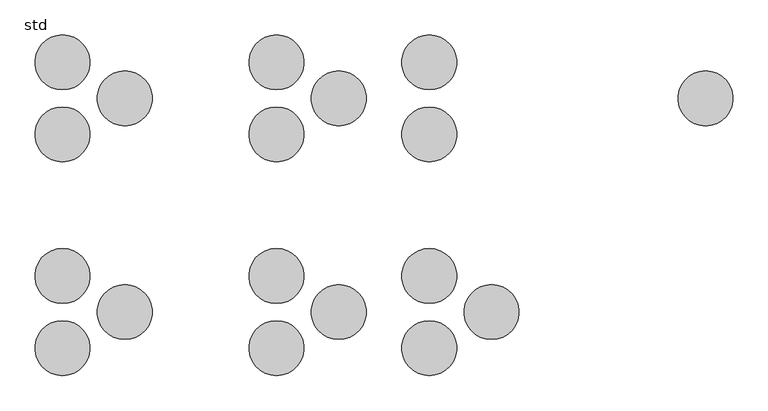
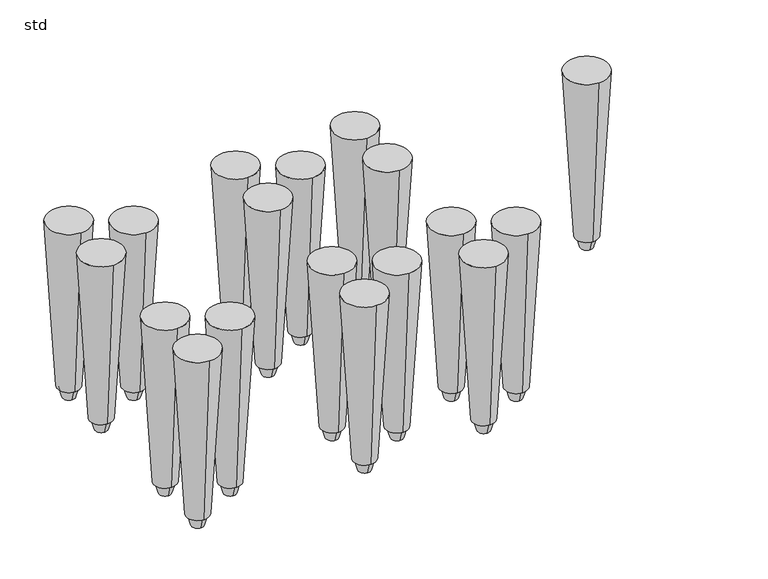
"""IFC4 building model written with IfcOpenShell, lengths in millimetres: unitary equipment geometry, Z_ME_UN_Aquacell_NG_Infiltration_Unit_Wavin_(nested) : std."""

from ifc_helpers import new_model, si_unit, frame, origin, place, context, project, spatial, polyline, circle_curve, source, transform, mapped, element, save
from ifc_brep_helpers import plane_surface, revolved_surface, advanced_brep


def std_cb78f788(model_context):
    return source(origin(), model_context, "Body", "AdvancedBrep", [
        advanced_brep(
        [(1144.0, 487.65, 175.0), (1144.0, 462.35, 175.0), (1144.0, 494.5, 200.0), (1144.0, 455.5, 200.0)],
        [
            (0, 1, circle_curve(frame((1144.0, 475.0, 175.0), z_axis=(0.0, 0.0, -1.0), x_axis=(0.0, 1.0, 0.0)), 12.65)),
            (1, 0, circle_curve(frame((1144.0, 475.0, 175.0), z_axis=(0.0, 0.0, -1.0), x_axis=(0.0, -1.0, 0.0)), 12.65)),
            (2, 3, circle_curve(frame((1144.0, 475.0, 200.0), z_axis=(0.0, 0.0, 1.0), x_axis=(0.0, -1.0, 0.0)), 19.5)),
            (3, 2, circle_curve(frame((1144.0, 475.0, 200.0), z_axis=(0.0, 0.0, 1.0), x_axis=(0.0, 1.0, 0.0)), 19.5)),
            (3, 1),
            (0, 2),
        ],
        [
            plane_surface(frame((1144.0, 475.0, 175.0), z_axis=(0.0, 0.0, -1.0), x_axis=(1.0, 0.0, 0.0))),
            plane_surface(frame((1144.0, 475.0, 200.0), z_axis=(0.0, 0.0, 1.0), x_axis=(1.0, 0.0, 0.0))),
            revolved_surface(polyline([(1144.0, 487.6499999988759, 175.0), (1144.0, 494.5, 200.0)]), (1144.0, 475.0, 128.8321168), (0.0, 0.0, 1.0)),
            revolved_surface(polyline([(1144.0, 462.3500000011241, 175.0), (1144.0, 455.5, 200.0)]), (1144.0, 475.0, 128.8321168), (0.0, 0.0, 1.0)),
        ],
        [
            (0, [[1, 2]]),
            (1, [[3, 4]]),
            (2, [[-4, 5, -1, 6]]),
            (3, [[-3, -6, -2, -5]]),
        ],
    ),
        advanced_brep(
        [(1144.0, 498.65, 200.0), (1144.0, 451.35, 200.0), (1144.0, 520.0, 565.0), (1144.0, 430.0, 565.0)],
        [
            (0, 1, circle_curve(frame((1144.0, 475.0, 200.0), z_axis=(0.0, 0.0, -1.0), x_axis=(0.0, 1.0, 0.0)), 23.65)),
            (1, 0, circle_curve(frame((1144.0, 475.0, 200.0), z_axis=(0.0, 0.0, -1.0), x_axis=(0.0, -1.0, 0.0)), 23.65)),
            (2, 3, circle_curve(frame((1144.0, 475.0, 565.0), z_axis=(0.0, 0.0, 1.0), x_axis=(0.0, -1.0, 0.0)), 45.0)),
            (3, 2, circle_curve(frame((1144.0, 475.0, 565.0), z_axis=(0.0, 0.0, 1.0), x_axis=(0.0, 1.0, 0.0)), 45.0)),
            (3, 1),
            (0, 2),
        ],
        [
            plane_surface(frame((1144.0, 475.0, 200.0), z_axis=(0.0, 0.0, -1.0), x_axis=(1.0, 0.0, 0.0))),
            plane_surface(frame((1144.0, 475.0, 565.0), z_axis=(0.0, 0.0, 1.0), x_axis=(1.0, 0.0, 0.0))),
            revolved_surface(polyline([(1144.0, 498.6500000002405, 199.99999999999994), (1144.0, 520.0, 565.0)]), (1144.0, 475.0, -204.3208431), (0.0, 0.0, 1.0)),
            revolved_surface(polyline([(1144.0, 451.3499999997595, 199.99999999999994), (1144.0, 430.0, 565.0)]), (1144.0, 475.0, -204.3208431), (0.0, 0.0, 1.0)),
        ],
        [
            (0, [[1, 2]]),
            (1, [[3, 4]]),
            (2, [[-4, 5, -1, 6]]),
            (3, [[-3, -6, -2, -5]]),
        ],
    ),
        advanced_brep(
        [(692.0, 78.65, 175.0), (692.0, 53.35, 175.0), (692.0, 85.5, 200.0), (692.0, 46.5, 200.0)],
        [
            (0, 1, circle_curve(frame((692.0, 66.0, 175.0), z_axis=(0.0, 0.0, -1.0), x_axis=(0.0, 1.0, 0.0)), 12.65)),
            (1, 0, circle_curve(frame((692.0, 66.0, 175.0), z_axis=(0.0, 0.0, -1.0), x_axis=(0.0, -1.0, 0.0)), 12.65)),
            (2, 3, circle_curve(frame((692.0, 66.0, 200.0), z_axis=(0.0, 0.0, 1.0), x_axis=(0.0, -1.0, 0.0)), 19.5)),
            (3, 2, circle_curve(frame((692.0, 66.0, 200.0), z_axis=(0.0, 0.0, 1.0), x_axis=(0.0, 1.0, 0.0)), 19.5)),
            (3, 1),
            (0, 2),
        ],
        [
            plane_surface(frame((692.0, 66.0, 175.0), z_axis=(0.0, 0.0, -1.0), x_axis=(1.0, 0.0, 0.0))),
            plane_surface(frame((692.0, 66.0, 200.0), z_axis=(0.0, 0.0, 1.0), x_axis=(1.0, 0.0, 0.0))),
            revolved_surface(polyline([(692.0, 78.6499999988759, 175.0), (692.0, 85.5, 200.0)]), (692.0, 66.0, 128.8321168), (0.0, 0.0, 1.0)),
            revolved_surface(polyline([(692.0, 53.3500000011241, 175.0), (692.0, 46.5, 200.0)]), (692.0, 66.0, 128.8321168), (0.0, 0.0, 1.0)),
        ],
        [
            (0, [[1, 2]]),
            (1, [[3, 4]]),
            (2, [[-4, 5, -1, 6]]),
            (3, [[-3, -6, -2, -5]]),
        ],
    ),
        advanced_brep(
        [(692.0, 196.65, 175.0), (692.0, 171.35, 175.0), (692.0, 203.5, 200.0), (692.0, 164.5, 200.0)],
        [
            (0, 1, circle_curve(frame((692.0, 184.0, 175.0), z_axis=(0.0, 0.0, -1.0), x_axis=(0.0, 1.0, 0.0)), 12.65)),
            (1, 0, circle_curve(frame((692.0, 184.0, 175.0), z_axis=(0.0, 0.0, -1.0), x_axis=(0.0, -1.0, 0.0)), 12.65)),
            (2, 3, circle_curve(frame((692.0, 184.0, 200.0), z_axis=(0.0, 0.0, 1.0), x_axis=(0.0, -1.0, 0.0)), 19.5)),
            (3, 2, circle_curve(frame((692.0, 184.0, 200.0), z_axis=(0.0, 0.0, 1.0), x_axis=(0.0, 1.0, 0.0)), 19.5)),
            (3, 1),
            (0, 2),
        ],
        [
            plane_surface(frame((692.0, 184.0, 175.0), z_axis=(0.0, 0.0, -1.0), x_axis=(1.0, 0.0, 0.0))),
            plane_surface(frame((692.0, 184.0, 200.0), z_axis=(0.0, 0.0, 1.0), x_axis=(1.0, 0.0, 0.0))),
            revolved_surface(polyline([(692.0, 196.6499999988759, 175.0), (692.0, 203.5, 200.0)]), (692.0, 184.0, 128.8321168), (0.0, 0.0, 1.0)),
            revolved_surface(polyline([(692.0, 171.3500000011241, 175.0), (692.0, 164.5, 200.0)]), (692.0, 184.0, 128.8321168), (0.0, 0.0, 1.0)),
        ],
        [
            (0, [[1, 2]]),
            (1, [[3, 4]]),
            (2, [[-4, 5, -1, 6]]),
            (3, [[-3, -6, -2, -5]]),
        ],
    ),
        advanced_brep(
        [(692.0, 89.65, 200.0), (692.0, 42.35, 200.0), (692.0, 111.0, 565.0), (692.0, 21.0, 565.0)],
        [
            (0, 1, circle_curve(frame((692.0, 66.0, 200.0), z_axis=(0.0, 0.0, -1.0), x_axis=(0.0, 1.0, 0.0)), 23.65)),
            (1, 0, circle_curve(frame((692.0, 66.0, 200.0), z_axis=(0.0, 0.0, -1.0), x_axis=(0.0, -1.0, 0.0)), 23.65)),
            (2, 3, circle_curve(frame((692.0, 66.0, 565.0), z_axis=(0.0, 0.0, 1.0), x_axis=(0.0, -1.0, 0.0)), 45.0)),
            (3, 2, circle_curve(frame((692.0, 66.0, 565.0), z_axis=(0.0, 0.0, 1.0), x_axis=(0.0, 1.0, 0.0)), 45.0)),
            (3, 1),
            (0, 2),
        ],
        [
            plane_surface(frame((692.0, 66.0, 200.0), z_axis=(0.0, 0.0, -1.0), x_axis=(1.0, 0.0, 0.0))),
            plane_surface(frame((692.0, 66.0, 565.0), z_axis=(0.0, 0.0, 1.0), x_axis=(1.0, 0.0, 0.0))),
            revolved_surface(polyline([(692.0, 89.65000000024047, 199.99999999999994), (692.0, 111.0, 565.0)]), (692.0, 66.0, -204.3208431), (0.0, 0.0, 1.0)),
            revolved_surface(polyline([(692.0, 42.34999999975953, 199.99999999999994), (692.0, 21.0, 565.0)]), (692.0, 66.0, -204.3208431), (0.0, 0.0, 1.0)),
        ],
        [
            (0, [[1, 2]]),
            (1, [[3, 4]]),
            (2, [[-4, 5, -1, 6]]),
            (3, [[-3, -6, -2, -5]]),
        ],
    ),
        advanced_brep(
        [(692.0, 207.65, 200.0), (692.0, 160.35, 200.0), (692.0, 229.0, 565.0), (692.0, 139.0, 565.0)],
        [
            (0, 1, circle_curve(frame((692.0, 184.0, 200.0), z_axis=(0.0, 0.0, -1.0), x_axis=(0.0, 1.0, 0.0)), 23.65)),
            (1, 0, circle_curve(frame((692.0, 184.0, 200.0), z_axis=(0.0, 0.0, -1.0), x_axis=(0.0, -1.0, 0.0)), 23.65)),
            (2, 3, circle_curve(frame((692.0, 184.0, 565.0), z_axis=(0.0, 0.0, 1.0), x_axis=(0.0, -1.0, 0.0)), 45.0)),
            (3, 2, circle_curve(frame((692.0, 184.0, 565.0), z_axis=(0.0, 0.0, 1.0), x_axis=(0.0, 1.0, 0.0)), 45.0)),
            (3, 1),
            (0, 2),
        ],
        [
            plane_surface(frame((692.0, 184.0, 200.0), z_axis=(0.0, 0.0, -1.0), x_axis=(1.0, 0.0, 0.0))),
            plane_surface(frame((692.0, 184.0, 565.0), z_axis=(0.0, 0.0, 1.0), x_axis=(1.0, 0.0, 0.0))),
            revolved_surface(polyline([(692.0, 207.65000000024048, 199.99999999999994), (692.0, 229.0, 565.0)]), (692.0, 184.0, -204.3208431), (0.0, 0.0, 1.0)),
            revolved_surface(polyline([(692.0, 160.34999999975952, 199.99999999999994), (692.0, 139.0, 565.0)]), (692.0, 184.0, -204.3208431), (0.0, 0.0, 1.0)),
        ],
        [
            (0, [[1, 2]]),
            (1, [[3, 4]]),
            (2, [[-4, 5, -1, 6]]),
            (3, [[-3, -6, -2, -5]]),
        ],
    ),
        advanced_brep(
        [(794.0, 137.65, 175.0), (794.0, 112.35, 175.0), (794.0, 144.5, 200.0), (794.0, 105.5, 200.0)],
        [
            (0, 1, circle_curve(frame((794.0, 125.0, 175.0), z_axis=(0.0, 0.0, -1.0), x_axis=(0.0, 1.0, 0.0)), 12.65)),
            (1, 0, circle_curve(frame((794.0, 125.0, 175.0), z_axis=(0.0, 0.0, -1.0), x_axis=(0.0, -1.0, 0.0)), 12.65)),
            (2, 3, circle_curve(frame((794.0, 125.0, 200.0), z_axis=(0.0, 0.0, 1.0), x_axis=(0.0, -1.0, 0.0)), 19.5)),
            (3, 2, circle_curve(frame((794.0, 125.0, 200.0), z_axis=(0.0, 0.0, 1.0), x_axis=(0.0, 1.0, 0.0)), 19.5)),
            (3, 1),
            (0, 2),
        ],
        [
            plane_surface(frame((794.0, 125.0, 175.0), z_axis=(0.0, 0.0, -1.0), x_axis=(1.0, 0.0, 0.0))),
            plane_surface(frame((794.0, 125.0, 200.0), z_axis=(0.0, 0.0, 1.0), x_axis=(1.0, 0.0, 0.0))),
            revolved_surface(polyline([(794.0, 137.6499999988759, 175.0), (794.0, 144.5, 200.0)]), (794.0, 125.0, 128.8321168), (0.0, 0.0, 1.0)),
            revolved_surface(polyline([(794.0, 112.3500000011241, 175.0), (794.0, 105.5, 200.0)]), (794.0, 125.0, 128.8321168), (0.0, 0.0, 1.0)),
        ],
        [
            (0, [[1, 2]]),
            (1, [[3, 4]]),
            (2, [[-4, 5, -1, 6]]),
            (3, [[-3, -6, -2, -5]]),
        ],
    ),
        advanced_brep(
        [(794.0, 148.65, 200.0), (794.0, 101.35, 200.0), (794.0, 170.0, 565.0), (794.0, 80.0, 565.0)],
        [
            (0, 1, circle_curve(frame((794.0, 125.0, 200.0), z_axis=(0.0, 0.0, -1.0), x_axis=(0.0, 1.0, 0.0)), 23.65)),
            (1, 0, circle_curve(frame((794.0, 125.0, 200.0), z_axis=(0.0, 0.0, -1.0), x_axis=(0.0, -1.0, 0.0)), 23.65)),
            (2, 3, circle_curve(frame((794.0, 125.0, 565.0), z_axis=(0.0, 0.0, 1.0), x_axis=(0.0, -1.0, 0.0)), 45.0)),
            (3, 2, circle_curve(frame((794.0, 125.0, 565.0), z_axis=(0.0, 0.0, 1.0), x_axis=(0.0, 1.0, 0.0)), 45.0)),
            (3, 1),
            (0, 2),
        ],
        [
            plane_surface(frame((794.0, 125.0, 200.0), z_axis=(0.0, 0.0, -1.0), x_axis=(1.0, 0.0, 0.0))),
            plane_surface(frame((794.0, 125.0, 565.0), z_axis=(0.0, 0.0, 1.0), x_axis=(1.0, 0.0, 0.0))),
            revolved_surface(polyline([(794.0, 148.65000000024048, 199.99999999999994), (794.0, 170.0, 565.0)]), (794.0, 125.0, -204.3208431), (0.0, 0.0, 1.0)),
            revolved_surface(polyline([(794.0, 101.34999999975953, 199.99999999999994), (794.0, 80.0, 565.0)]), (794.0, 125.0, -204.3208431), (0.0, 0.0, 1.0)),
        ],
        [
            (0, [[1, 2]]),
            (1, [[3, 4]]),
            (2, [[-4, 5, -1, 6]]),
            (3, [[-3, -6, -2, -5]]),
        ],
    ),
        advanced_brep(
        [(442.0, 78.65, 175.0), (442.0, 53.35, 175.0), (442.0, 85.5, 200.0), (442.0, 46.5, 200.0)],
        [
            (0, 1, circle_curve(frame((442.0, 66.0, 175.0), z_axis=(0.0, 0.0, -1.0), x_axis=(0.0, 1.0, 0.0)), 12.65)),
            (1, 0, circle_curve(frame((442.0, 66.0, 175.0), z_axis=(0.0, 0.0, -1.0), x_axis=(0.0, -1.0, 0.0)), 12.65)),
            (2, 3, circle_curve(frame((442.0, 66.0, 200.0), z_axis=(0.0, 0.0, 1.0), x_axis=(0.0, -1.0, 0.0)), 19.5)),
            (3, 2, circle_curve(frame((442.0, 66.0, 200.0), z_axis=(0.0, 0.0, 1.0), x_axis=(0.0, 1.0, 0.0)), 19.5)),
            (3, 1),
            (0, 2),
        ],
        [
            plane_surface(frame((442.0, 66.0, 175.0), z_axis=(0.0, 0.0, -1.0), x_axis=(1.0, 0.0, 0.0))),
            plane_surface(frame((442.0, 66.0, 200.0), z_axis=(0.0, 0.0, 1.0), x_axis=(1.0, 0.0, 0.0))),
            revolved_surface(polyline([(442.0, 78.6499999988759, 175.0), (442.0, 85.5, 200.0)]), (442.0, 66.0, 128.8321168), (0.0, 0.0, 1.0)),
            revolved_surface(polyline([(442.0, 53.3500000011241, 175.0), (442.0, 46.5, 200.0)]), (442.0, 66.0, 128.8321168), (0.0, 0.0, 1.0)),
        ],
        [
            (0, [[1, 2]]),
            (1, [[3, 4]]),
            (2, [[-4, 5, -1, 6]]),
            (3, [[-3, -6, -2, -5]]),
        ],
    ),
        advanced_brep(
        [(442.0, 196.65, 175.0), (442.0, 171.35, 175.0), (442.0, 203.5, 200.0), (442.0, 164.5, 200.0)],
        [
            (0, 1, circle_curve(frame((442.0, 184.0, 175.0), z_axis=(0.0, 0.0, -1.0), x_axis=(0.0, 1.0, 0.0)), 12.65)),
            (1, 0, circle_curve(frame((442.0, 184.0, 175.0), z_axis=(0.0, 0.0, -1.0), x_axis=(0.0, -1.0, 0.0)), 12.65)),
            (2, 3, circle_curve(frame((442.0, 184.0, 200.0), z_axis=(0.0, 0.0, 1.0), x_axis=(0.0, -1.0, 0.0)), 19.5)),
            (3, 2, circle_curve(frame((442.0, 184.0, 200.0), z_axis=(0.0, 0.0, 1.0), x_axis=(0.0, 1.0, 0.0)), 19.5)),
            (3, 1),
            (0, 2),
        ],
        [
            plane_surface(frame((442.0, 184.0, 175.0), z_axis=(0.0, 0.0, -1.0), x_axis=(1.0, 0.0, 0.0))),
            plane_surface(frame((442.0, 184.0, 200.0), z_axis=(0.0, 0.0, 1.0), x_axis=(1.0, 0.0, 0.0))),
            revolved_surface(polyline([(442.0, 196.6499999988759, 175.0), (442.0, 203.5, 200.0)]), (442.0, 184.0, 128.8321168), (0.0, 0.0, 1.0)),
            revolved_surface(polyline([(442.0, 171.3500000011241, 175.0), (442.0, 164.5, 200.0)]), (442.0, 184.0, 128.8321168), (0.0, 0.0, 1.0)),
        ],
        [
            (0, [[1, 2]]),
            (1, [[3, 4]]),
            (2, [[-4, 5, -1, 6]]),
            (3, [[-3, -6, -2, -5]]),
        ],
    ),
        advanced_brep(
        [(442.0, 89.65, 200.0), (442.0, 42.35, 200.0), (442.0, 111.0, 565.0), (442.0, 21.0, 565.0)],
        [
            (0, 1, circle_curve(frame((442.0, 66.0, 200.0), z_axis=(0.0, 0.0, -1.0), x_axis=(0.0, 1.0, 0.0)), 23.65)),
            (1, 0, circle_curve(frame((442.0, 66.0, 200.0), z_axis=(0.0, 0.0, -1.0), x_axis=(0.0, -1.0, 0.0)), 23.65)),
            (2, 3, circle_curve(frame((442.0, 66.0, 565.0), z_axis=(0.0, 0.0, 1.0), x_axis=(0.0, -1.0, 0.0)), 45.0)),
            (3, 2, circle_curve(frame((442.0, 66.0, 565.0), z_axis=(0.0, 0.0, 1.0), x_axis=(0.0, 1.0, 0.0)), 45.0)),
            (3, 1),
            (0, 2),
        ],
        [
            plane_surface(frame((442.0, 66.0, 200.0), z_axis=(0.0, 0.0, -1.0), x_axis=(1.0, 0.0, 0.0))),
            plane_surface(frame((442.0, 66.0, 565.0), z_axis=(0.0, 0.0, 1.0), x_axis=(1.0, 0.0, 0.0))),
            revolved_surface(polyline([(442.0, 89.65000000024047, 199.99999999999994), (442.0, 111.0, 565.0)]), (442.0, 66.0, -204.3208431), (0.0, 0.0, 1.0)),
            revolved_surface(polyline([(442.0, 42.34999999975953, 199.99999999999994), (442.0, 21.0, 565.0)]), (442.0, 66.0, -204.3208431), (0.0, 0.0, 1.0)),
        ],
        [
            (0, [[1, 2]]),
            (1, [[3, 4]]),
            (2, [[-4, 5, -1, 6]]),
            (3, [[-3, -6, -2, -5]]),
        ],
    ),
        advanced_brep(
        [(442.0, 207.65, 200.0), (442.0, 160.35, 200.0), (442.0, 229.0, 565.0), (442.0, 139.0, 565.0)],
        [
            (0, 1, circle_curve(frame((442.0, 184.0, 200.0), z_axis=(0.0, 0.0, -1.0), x_axis=(0.0, 1.0, 0.0)), 23.65)),
            (1, 0, circle_curve(frame((442.0, 184.0, 200.0), z_axis=(0.0, 0.0, -1.0), x_axis=(0.0, -1.0, 0.0)), 23.65)),
            (2, 3, circle_curve(frame((442.0, 184.0, 565.0), z_axis=(0.0, 0.0, 1.0), x_axis=(0.0, -1.0, 0.0)), 45.0)),
            (3, 2, circle_curve(frame((442.0, 184.0, 565.0), z_axis=(0.0, 0.0, 1.0), x_axis=(0.0, 1.0, 0.0)), 45.0)),
            (3, 1),
            (0, 2),
        ],
        [
            plane_surface(frame((442.0, 184.0, 200.0), z_axis=(0.0, 0.0, -1.0), x_axis=(1.0, 0.0, 0.0))),
            plane_surface(frame((442.0, 184.0, 565.0), z_axis=(0.0, 0.0, 1.0), x_axis=(1.0, 0.0, 0.0))),
            revolved_surface(polyline([(442.0, 207.65000000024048, 199.99999999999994), (442.0, 229.0, 565.0)]), (442.0, 184.0, -204.3208431), (0.0, 0.0, 1.0)),
            revolved_surface(polyline([(442.0, 160.34999999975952, 199.99999999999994), (442.0, 139.0, 565.0)]), (442.0, 184.0, -204.3208431), (0.0, 0.0, 1.0)),
        ],
        [
            (0, [[1, 2]]),
            (1, [[3, 4]]),
            (2, [[-4, 5, -1, 6]]),
            (3, [[-3, -6, -2, -5]]),
        ],
    ),
        advanced_brep(
        [(544.0, 137.65, 175.0), (544.0, 112.35, 175.0), (544.0, 144.5, 200.0), (544.0, 105.5, 200.0)],
        [
            (0, 1, circle_curve(frame((544.0, 125.0, 175.0), z_axis=(0.0, 0.0, -1.0), x_axis=(0.0, 1.0, 0.0)), 12.65)),
            (1, 0, circle_curve(frame((544.0, 125.0, 175.0), z_axis=(0.0, 0.0, -1.0), x_axis=(0.0, -1.0, 0.0)), 12.65)),
            (2, 3, circle_curve(frame((544.0, 125.0, 200.0), z_axis=(0.0, 0.0, 1.0), x_axis=(0.0, -1.0, 0.0)), 19.5)),
            (3, 2, circle_curve(frame((544.0, 125.0, 200.0), z_axis=(0.0, 0.0, 1.0), x_axis=(0.0, 1.0, 0.0)), 19.5)),
            (3, 1),
            (0, 2),
        ],
        [
            plane_surface(frame((544.0, 125.0, 175.0), z_axis=(0.0, 0.0, -1.0), x_axis=(1.0, 0.0, 0.0))),
            plane_surface(frame((544.0, 125.0, 200.0), z_axis=(0.0, 0.0, 1.0), x_axis=(1.0, 0.0, 0.0))),
            revolved_surface(polyline([(544.0, 137.6499999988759, 175.0), (544.0, 144.5, 200.0)]), (544.0, 125.0, 128.8321168), (0.0, 0.0, 1.0)),
            revolved_surface(polyline([(544.0, 112.3500000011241, 175.0), (544.0, 105.5, 200.0)]), (544.0, 125.0, 128.8321168), (0.0, 0.0, 1.0)),
        ],
        [
            (0, [[1, 2]]),
            (1, [[3, 4]]),
            (2, [[-4, 5, -1, 6]]),
            (3, [[-3, -6, -2, -5]]),
        ],
    ),
        advanced_brep(
        [(544.0, 148.65, 200.0), (544.0, 101.35, 200.0), (544.0, 170.0, 565.0), (544.0, 80.0, 565.0)],
        [
            (0, 1, circle_curve(frame((544.0, 125.0, 200.0), z_axis=(0.0, 0.0, -1.0), x_axis=(0.0, 1.0, 0.0)), 23.65)),
            (1, 0, circle_curve(frame((544.0, 125.0, 200.0), z_axis=(0.0, 0.0, -1.0), x_axis=(0.0, -1.0, 0.0)), 23.65)),
            (2, 3, circle_curve(frame((544.0, 125.0, 565.0), z_axis=(0.0, 0.0, 1.0), x_axis=(0.0, -1.0, 0.0)), 45.0)),
            (3, 2, circle_curve(frame((544.0, 125.0, 565.0), z_axis=(0.0, 0.0, 1.0), x_axis=(0.0, 1.0, 0.0)), 45.0)),
            (3, 1),
            (0, 2),
        ],
        [
            plane_surface(frame((544.0, 125.0, 200.0), z_axis=(0.0, 0.0, -1.0), x_axis=(1.0, 0.0, 0.0))),
            plane_surface(frame((544.0, 125.0, 565.0), z_axis=(0.0, 0.0, 1.0), x_axis=(1.0, 0.0, 0.0))),
            revolved_surface(polyline([(544.0, 148.65000000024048, 199.99999999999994), (544.0, 170.0, 565.0)]), (544.0, 125.0, -204.3208431), (0.0, 0.0, 1.0)),
            revolved_surface(polyline([(544.0, 101.34999999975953, 199.99999999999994), (544.0, 80.0, 565.0)]), (544.0, 125.0, -204.3208431), (0.0, 0.0, 1.0)),
        ],
        [
            (0, [[1, 2]]),
            (1, [[3, 4]]),
            (2, [[-4, 5, -1, 6]]),
            (3, [[-3, -6, -2, -5]]),
        ],
    ),
        advanced_brep(
        [(92.0, 78.65, 175.0), (92.0, 53.35, 175.0), (92.0, 85.5, 200.0), (92.0, 46.5, 200.0)],
        [
            (0, 1, circle_curve(frame((92.0, 66.0, 175.0), z_axis=(0.0, 0.0, -1.0), x_axis=(0.0, 1.0, 0.0)), 12.65)),
            (1, 0, circle_curve(frame((92.0, 66.0, 175.0), z_axis=(0.0, 0.0, -1.0), x_axis=(0.0, -1.0, 0.0)), 12.65)),
            (2, 3, circle_curve(frame((92.0, 66.0, 200.0), z_axis=(0.0, 0.0, 1.0), x_axis=(0.0, -1.0, 0.0)), 19.5)),
            (3, 2, circle_curve(frame((92.0, 66.0, 200.0), z_axis=(0.0, 0.0, 1.0), x_axis=(0.0, 1.0, 0.0)), 19.5)),
            (3, 1),
            (0, 2),
        ],
        [
            plane_surface(frame((92.0, 66.0, 175.0), z_axis=(0.0, 0.0, -1.0), x_axis=(1.0, 0.0, 0.0))),
            plane_surface(frame((92.0, 66.0, 200.0), z_axis=(0.0, 0.0, 1.0), x_axis=(1.0, 0.0, 0.0))),
            revolved_surface(polyline([(92.0, 78.6499999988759, 175.0), (92.0, 85.5, 200.0)]), (92.0, 66.0, 128.8321168), (0.0, 0.0, 1.0)),
            revolved_surface(polyline([(92.0, 53.3500000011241, 175.0), (92.0, 46.5, 200.0)]), (92.0, 66.0, 128.8321168), (0.0, 0.0, 1.0)),
        ],
        [
            (0, [[1, 2]]),
            (1, [[3, 4]]),
            (2, [[-4, 5, -1, 6]]),
            (3, [[-3, -6, -2, -5]]),
        ],
    ),
        advanced_brep(
        [(92.0, 196.65, 175.0), (92.0, 171.35, 175.0), (92.0, 203.5, 200.0), (92.0, 164.5, 200.0)],
        [
            (0, 1, circle_curve(frame((92.0, 184.0, 175.0), z_axis=(0.0, 0.0, -1.0), x_axis=(0.0, 1.0, 0.0)), 12.65)),
            (1, 0, circle_curve(frame((92.0, 184.0, 175.0), z_axis=(0.0, 0.0, -1.0), x_axis=(0.0, -1.0, 0.0)), 12.65)),
            (2, 3, circle_curve(frame((92.0, 184.0, 200.0), z_axis=(0.0, 0.0, 1.0), x_axis=(0.0, -1.0, 0.0)), 19.5)),
            (3, 2, circle_curve(frame((92.0, 184.0, 200.0), z_axis=(0.0, 0.0, 1.0), x_axis=(0.0, 1.0, 0.0)), 19.5)),
            (3, 1),
            (0, 2),
        ],
        [
            plane_surface(frame((92.0, 184.0, 175.0), z_axis=(0.0, 0.0, -1.0), x_axis=(1.0, 0.0, 0.0))),
            plane_surface(frame((92.0, 184.0, 200.0), z_axis=(0.0, 0.0, 1.0), x_axis=(1.0, 0.0, 0.0))),
            revolved_surface(polyline([(92.0, 196.6499999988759, 175.0), (92.0, 203.5, 200.0)]), (92.0, 184.0, 128.8321168), (0.0, 0.0, 1.0)),
            revolved_surface(polyline([(92.0, 171.3500000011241, 175.0), (92.0, 164.5, 200.0)]), (92.0, 184.0, 128.8321168), (0.0, 0.0, 1.0)),
        ],
        [
            (0, [[1, 2]]),
            (1, [[3, 4]]),
            (2, [[-4, 5, -1, 6]]),
            (3, [[-3, -6, -2, -5]]),
        ],
    ),
        advanced_brep(
        [(92.0, 89.65, 200.0), (92.0, 42.35, 200.0), (92.0, 111.0, 565.0), (92.0, 21.0, 565.0)],
        [
            (0, 1, circle_curve(frame((92.0, 66.0, 200.0), z_axis=(0.0, 0.0, -1.0), x_axis=(0.0, 1.0, 0.0)), 23.65)),
            (1, 0, circle_curve(frame((92.0, 66.0, 200.0), z_axis=(0.0, 0.0, -1.0), x_axis=(0.0, -1.0, 0.0)), 23.65)),
            (2, 3, circle_curve(frame((92.0, 66.0, 565.0), z_axis=(0.0, 0.0, 1.0), x_axis=(0.0, -1.0, 0.0)), 45.0)),
            (3, 2, circle_curve(frame((92.0, 66.0, 565.0), z_axis=(0.0, 0.0, 1.0), x_axis=(0.0, 1.0, 0.0)), 45.0)),
            (3, 1),
            (0, 2),
        ],
        [
            plane_surface(frame((92.0, 66.0, 200.0), z_axis=(0.0, 0.0, -1.0), x_axis=(1.0, 0.0, 0.0))),
            plane_surface(frame((92.0, 66.0, 565.0), z_axis=(0.0, 0.0, 1.0), x_axis=(1.0, 0.0, 0.0))),
            revolved_surface(polyline([(92.0, 89.65000000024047, 199.99999999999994), (92.0, 111.0, 565.0)]), (92.0, 66.0, -204.3208431), (0.0, 0.0, 1.0)),
            revolved_surface(polyline([(92.0, 42.34999999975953, 199.99999999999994), (92.0, 21.0, 565.0)]), (92.0, 66.0, -204.3208431), (0.0, 0.0, 1.0)),
        ],
        [
            (0, [[1, 2]]),
            (1, [[3, 4]]),
            (2, [[-4, 5, -1, 6]]),
            (3, [[-3, -6, -2, -5]]),
        ],
    ),
        advanced_brep(
        [(92.0, 207.65, 200.0), (92.0, 160.35, 200.0), (92.0, 229.0, 565.0), (92.0, 139.0, 565.0)],
        [
            (0, 1, circle_curve(frame((92.0, 184.0, 200.0), z_axis=(0.0, 0.0, -1.0), x_axis=(0.0, 1.0, 0.0)), 23.65)),
            (1, 0, circle_curve(frame((92.0, 184.0, 200.0), z_axis=(0.0, 0.0, -1.0), x_axis=(0.0, -1.0, 0.0)), 23.65)),
            (2, 3, circle_curve(frame((92.0, 184.0, 565.0), z_axis=(0.0, 0.0, 1.0), x_axis=(0.0, -1.0, 0.0)), 45.0)),
            (3, 2, circle_curve(frame((92.0, 184.0, 565.0), z_axis=(0.0, 0.0, 1.0), x_axis=(0.0, 1.0, 0.0)), 45.0)),
            (3, 1),
            (0, 2),
        ],
        [
            plane_surface(frame((92.0, 184.0, 200.0), z_axis=(0.0, 0.0, -1.0), x_axis=(1.0, 0.0, 0.0))),
            plane_surface(frame((92.0, 184.0, 565.0), z_axis=(0.0, 0.0, 1.0), x_axis=(1.0, 0.0, 0.0))),
            revolved_surface(polyline([(92.0, 207.65000000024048, 199.99999999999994), (92.0, 229.0, 565.0)]), (92.0, 184.0, -204.3208431), (0.0, 0.0, 1.0)),
            revolved_surface(polyline([(92.0, 160.34999999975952, 199.99999999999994), (92.0, 139.0, 565.0)]), (92.0, 184.0, -204.3208431), (0.0, 0.0, 1.0)),
        ],
        [
            (0, [[1, 2]]),
            (1, [[3, 4]]),
            (2, [[-4, 5, -1, 6]]),
            (3, [[-3, -6, -2, -5]]),
        ],
    ),
        advanced_brep(
        [(194.0, 137.65, 175.0), (194.0, 112.35, 175.0), (194.0, 144.5, 200.0), (194.0, 105.5, 200.0)],
        [
            (0, 1, circle_curve(frame((194.0, 125.0, 175.0), z_axis=(0.0, 0.0, -1.0), x_axis=(0.0, 1.0, 0.0)), 12.65)),
            (1, 0, circle_curve(frame((194.0, 125.0, 175.0), z_axis=(0.0, 0.0, -1.0), x_axis=(0.0, -1.0, 0.0)), 12.65)),
            (2, 3, circle_curve(frame((194.0, 125.0, 200.0), z_axis=(0.0, 0.0, 1.0), x_axis=(0.0, -1.0, 0.0)), 19.5)),
            (3, 2, circle_curve(frame((194.0, 125.0, 200.0), z_axis=(0.0, 0.0, 1.0), x_axis=(0.0, 1.0, 0.0)), 19.5)),
            (3, 1),
            (0, 2),
        ],
        [
            plane_surface(frame((194.0, 125.0, 175.0), z_axis=(0.0, 0.0, -1.0), x_axis=(1.0, 0.0, 0.0))),
            plane_surface(frame((194.0, 125.0, 200.0), z_axis=(0.0, 0.0, 1.0), x_axis=(1.0, 0.0, 0.0))),
            revolved_surface(polyline([(194.0, 137.6499999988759, 175.0), (194.0, 144.5, 200.0)]), (194.0, 125.0, 128.8321168), (0.0, 0.0, 1.0)),
            revolved_surface(polyline([(194.0, 112.3500000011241, 175.0), (194.0, 105.5, 200.0)]), (194.0, 125.0, 128.8321168), (0.0, 0.0, 1.0)),
        ],
        [
            (0, [[1, 2]]),
            (1, [[3, 4]]),
            (2, [[-4, 5, -1, 6]]),
            (3, [[-3, -6, -2, -5]]),
        ],
    ),
        advanced_brep(
        [(194.0, 148.65, 200.0), (194.0, 101.35, 200.0), (194.0, 170.0, 565.0), (194.0, 80.0, 565.0)],
        [
            (0, 1, circle_curve(frame((194.0, 125.0, 200.0), z_axis=(0.0, 0.0, -1.0), x_axis=(0.0, 1.0, 0.0)), 23.65)),
            (1, 0, circle_curve(frame((194.0, 125.0, 200.0), z_axis=(0.0, 0.0, -1.0), x_axis=(0.0, -1.0, 0.0)), 23.65)),
            (2, 3, circle_curve(frame((194.0, 125.0, 565.0), z_axis=(0.0, 0.0, 1.0), x_axis=(0.0, -1.0, 0.0)), 45.0)),
            (3, 2, circle_curve(frame((194.0, 125.0, 565.0), z_axis=(0.0, 0.0, 1.0), x_axis=(0.0, 1.0, 0.0)), 45.0)),
            (3, 1),
            (0, 2),
        ],
        [
            plane_surface(frame((194.0, 125.0, 200.0), z_axis=(0.0, 0.0, -1.0), x_axis=(1.0, 0.0, 0.0))),
            plane_surface(frame((194.0, 125.0, 565.0), z_axis=(0.0, 0.0, 1.0), x_axis=(1.0, 0.0, 0.0))),
            revolved_surface(polyline([(194.0, 148.65000000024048, 199.99999999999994), (194.0, 170.0, 565.0)]), (194.0, 125.0, -204.3208431), (0.0, 0.0, 1.0)),
            revolved_surface(polyline([(194.0, 101.34999999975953, 199.99999999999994), (194.0, 80.0, 565.0)]), (194.0, 125.0, -204.3208431), (0.0, 0.0, 1.0)),
        ],
        [
            (0, [[1, 2]]),
            (1, [[3, 4]]),
            (2, [[-4, 5, -1, 6]]),
            (3, [[-3, -6, -2, -5]]),
        ],
    ),
        advanced_brep(
        [(92.0, 428.65, 175.0), (92.0, 403.35, 175.0), (92.0, 435.5, 200.0), (92.0, 396.5, 200.0)],
        [
            (0, 1, circle_curve(frame((92.0, 416.0, 175.0), z_axis=(0.0, 0.0, -1.0), x_axis=(0.0, 1.0, 0.0)), 12.65)),
            (1, 0, circle_curve(frame((92.0, 416.0, 175.0), z_axis=(0.0, 0.0, -1.0), x_axis=(0.0, -1.0, 0.0)), 12.65)),
            (2, 3, circle_curve(frame((92.0, 416.0, 200.0), z_axis=(0.0, 0.0, 1.0), x_axis=(0.0, -1.0, 0.0)), 19.5)),
            (3, 2, circle_curve(frame((92.0, 416.0, 200.0), z_axis=(0.0, 0.0, 1.0), x_axis=(0.0, 1.0, 0.0)), 19.5)),
            (3, 1),
            (0, 2),
        ],
        [
            plane_surface(frame((92.0, 416.0, 175.0), z_axis=(0.0, 0.0, -1.0), x_axis=(1.0, 0.0, 0.0))),
            plane_surface(frame((92.0, 416.0, 200.0), z_axis=(0.0, 0.0, 1.0), x_axis=(1.0, 0.0, 0.0))),
            revolved_surface(polyline([(92.0, 428.6499999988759, 175.0), (92.0, 435.5, 200.0)]), (92.0, 416.0, 128.8321168), (0.0, 0.0, 1.0)),
            revolved_surface(polyline([(92.0, 403.3500000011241, 175.0), (92.0, 396.5, 200.0)]), (92.0, 416.0, 128.8321168), (0.0, 0.0, 1.0)),
        ],
        [
            (0, [[1, 2]]),
            (1, [[3, 4]]),
            (2, [[-4, 5, -1, 6]]),
            (3, [[-3, -6, -2, -5]]),
        ],
    ),
        advanced_brep(
        [(92.0, 546.65, 175.0), (92.0, 521.35, 175.0), (92.0, 553.5, 200.0), (92.0, 514.5, 200.0)],
        [
            (0, 1, circle_curve(frame((92.0, 534.0, 175.0), z_axis=(0.0, 0.0, -1.0), x_axis=(0.0, 1.0, 0.0)), 12.65)),
            (1, 0, circle_curve(frame((92.0, 534.0, 175.0), z_axis=(0.0, 0.0, -1.0), x_axis=(0.0, -1.0, 0.0)), 12.65)),
            (2, 3, circle_curve(frame((92.0, 534.0, 200.0), z_axis=(0.0, 0.0, 1.0), x_axis=(0.0, -1.0, 0.0)), 19.5)),
            (3, 2, circle_curve(frame((92.0, 534.0, 200.0), z_axis=(0.0, 0.0, 1.0), x_axis=(0.0, 1.0, 0.0)), 19.5)),
            (3, 1),
            (0, 2),
        ],
        [
            plane_surface(frame((92.0, 534.0, 175.0), z_axis=(0.0, 0.0, -1.0), x_axis=(1.0, 0.0, 0.0))),
            plane_surface(frame((92.0, 534.0, 200.0), z_axis=(0.0, 0.0, 1.0), x_axis=(1.0, 0.0, 0.0))),
            revolved_surface(polyline([(92.0, 546.6499999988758, 175.0), (92.0, 553.5, 200.0)]), (92.0, 534.0, 128.8321168), (0.0, 0.0, 1.0)),
            revolved_surface(polyline([(92.0, 521.3500000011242, 175.0), (92.0, 514.5, 200.0)]), (92.0, 534.0, 128.8321168), (0.0, 0.0, 1.0)),
        ],
        [
            (0, [[1, 2]]),
            (1, [[3, 4]]),
            (2, [[-4, 5, -1, 6]]),
            (3, [[-3, -6, -2, -5]]),
        ],
    ),
        advanced_brep(
        [(92.0, 439.65, 200.0), (92.0, 392.35, 200.0), (92.0, 461.0, 565.0), (92.0, 371.0, 565.0)],
        [
            (0, 1, circle_curve(frame((92.0, 416.0, 200.0), z_axis=(0.0, 0.0, -1.0), x_axis=(0.0, 1.0, 0.0)), 23.65)),
            (1, 0, circle_curve(frame((92.0, 416.0, 200.0), z_axis=(0.0, 0.0, -1.0), x_axis=(0.0, -1.0, 0.0)), 23.65)),
            (2, 3, circle_curve(frame((92.0, 416.0, 565.0), z_axis=(0.0, 0.0, 1.0), x_axis=(0.0, -1.0, 0.0)), 45.0)),
            (3, 2, circle_curve(frame((92.0, 416.0, 565.0), z_axis=(0.0, 0.0, 1.0), x_axis=(0.0, 1.0, 0.0)), 45.0)),
            (3, 1),
            (0, 2),
        ],
        [
            plane_surface(frame((92.0, 416.0, 200.0), z_axis=(0.0, 0.0, -1.0), x_axis=(1.0, 0.0, 0.0))),
            plane_surface(frame((92.0, 416.0, 565.0), z_axis=(0.0, 0.0, 1.0), x_axis=(1.0, 0.0, 0.0))),
            revolved_surface(polyline([(92.0, 439.6500000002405, 199.99999999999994), (92.0, 461.0, 565.0)]), (92.0, 416.0, -204.3208431), (0.0, 0.0, 1.0)),
            revolved_surface(polyline([(92.0, 392.3499999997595, 199.99999999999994), (92.0, 371.0, 565.0)]), (92.0, 416.0, -204.3208431), (0.0, 0.0, 1.0)),
        ],
        [
            (0, [[1, 2]]),
            (1, [[3, 4]]),
            (2, [[-4, 5, -1, 6]]),
            (3, [[-3, -6, -2, -5]]),
        ],
    ),
        advanced_brep(
        [(92.0, 557.65, 200.0), (92.0, 510.35, 200.0), (92.0, 579.0, 565.0), (92.0, 489.0, 565.0)],
        [
            (0, 1, circle_curve(frame((92.0, 534.0, 200.0), z_axis=(0.0, 0.0, -1.0), x_axis=(0.0, 1.0, 0.0)), 23.65)),
            (1, 0, circle_curve(frame((92.0, 534.0, 200.0), z_axis=(0.0, 0.0, -1.0), x_axis=(0.0, -1.0, 0.0)), 23.65)),
            (2, 3, circle_curve(frame((92.0, 534.0, 565.0), z_axis=(0.0, 0.0, 1.0), x_axis=(0.0, -1.0, 0.0)), 45.0)),
            (3, 2, circle_curve(frame((92.0, 534.0, 565.0), z_axis=(0.0, 0.0, 1.0), x_axis=(0.0, 1.0, 0.0)), 45.0)),
            (3, 1),
            (0, 2),
        ],
        [
            plane_surface(frame((92.0, 534.0, 200.0), z_axis=(0.0, 0.0, -1.0), x_axis=(1.0, 0.0, 0.0))),
            plane_surface(frame((92.0, 534.0, 565.0), z_axis=(0.0, 0.0, 1.0), x_axis=(1.0, 0.0, 0.0))),
            revolved_surface(polyline([(92.0, 557.6500000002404, 199.99999999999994), (92.0, 579.0, 565.0)]), (92.0, 534.0, -204.3208431), (0.0, 0.0, 1.0)),
            revolved_surface(polyline([(92.0, 510.3499999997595, 199.99999999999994), (92.0, 489.0, 565.0)]), (92.0, 534.0, -204.3208431), (0.0, 0.0, 1.0)),
        ],
        [
            (0, [[1, 2]]),
            (1, [[3, 4]]),
            (2, [[-4, 5, -1, 6]]),
            (3, [[-3, -6, -2, -5]]),
        ],
    ),
        advanced_brep(
        [(194.0, 487.65, 175.0), (194.0, 462.35, 175.0), (194.0, 494.5, 200.0), (194.0, 455.5, 200.0)],
        [
            (0, 1, circle_curve(frame((194.0, 475.0, 175.0), z_axis=(0.0, 0.0, -1.0), x_axis=(0.0, 1.0, 0.0)), 12.65)),
            (1, 0, circle_curve(frame((194.0, 475.0, 175.0), z_axis=(0.0, 0.0, -1.0), x_axis=(0.0, -1.0, 0.0)), 12.65)),
            (2, 3, circle_curve(frame((194.0, 475.0, 200.0), z_axis=(0.0, 0.0, 1.0), x_axis=(0.0, -1.0, 0.0)), 19.5)),
            (3, 2, circle_curve(frame((194.0, 475.0, 200.0), z_axis=(0.0, 0.0, 1.0), x_axis=(0.0, 1.0, 0.0)), 19.5)),
            (3, 1),
            (0, 2),
        ],
        [
            plane_surface(frame((194.0, 475.0, 175.0), z_axis=(0.0, 0.0, -1.0), x_axis=(1.0, 0.0, 0.0))),
            plane_surface(frame((194.0, 475.0, 200.0), z_axis=(0.0, 0.0, 1.0), x_axis=(1.0, 0.0, 0.0))),
            revolved_surface(polyline([(194.0, 487.6499999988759, 175.0), (194.0, 494.5, 200.0)]), (194.0, 475.0, 128.8321168), (0.0, 0.0, 1.0)),
            revolved_surface(polyline([(194.0, 462.3500000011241, 175.0), (194.0, 455.5, 200.0)]), (194.0, 475.0, 128.8321168), (0.0, 0.0, 1.0)),
        ],
        [
            (0, [[1, 2]]),
            (1, [[3, 4]]),
            (2, [[-4, 5, -1, 6]]),
            (3, [[-3, -6, -2, -5]]),
        ],
    ),
        advanced_brep(
        [(194.0, 498.65, 200.0), (194.0, 451.35, 200.0), (194.0, 520.0, 565.0), (194.0, 430.0, 565.0)],
        [
            (0, 1, circle_curve(frame((194.0, 475.0, 200.0), z_axis=(0.0, 0.0, -1.0), x_axis=(0.0, 1.0, 0.0)), 23.65)),
            (1, 0, circle_curve(frame((194.0, 475.0, 200.0), z_axis=(0.0, 0.0, -1.0), x_axis=(0.0, -1.0, 0.0)), 23.65)),
            (2, 3, circle_curve(frame((194.0, 475.0, 565.0), z_axis=(0.0, 0.0, 1.0), x_axis=(0.0, -1.0, 0.0)), 45.0)),
            (3, 2, circle_curve(frame((194.0, 475.0, 565.0), z_axis=(0.0, 0.0, 1.0), x_axis=(0.0, 1.0, 0.0)), 45.0)),
            (3, 1),
            (0, 2),
        ],
        [
            plane_surface(frame((194.0, 475.0, 200.0), z_axis=(0.0, 0.0, -1.0), x_axis=(1.0, 0.0, 0.0))),
            plane_surface(frame((194.0, 475.0, 565.0), z_axis=(0.0, 0.0, 1.0), x_axis=(1.0, 0.0, 0.0))),
            revolved_surface(polyline([(194.0, 498.6500000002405, 199.99999999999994), (194.0, 520.0, 565.0)]), (194.0, 475.0, -204.3208431), (0.0, 0.0, 1.0)),
            revolved_surface(polyline([(194.0, 451.3499999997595, 199.99999999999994), (194.0, 430.0, 565.0)]), (194.0, 475.0, -204.3208431), (0.0, 0.0, 1.0)),
        ],
        [
            (0, [[1, 2]]),
            (1, [[3, 4]]),
            (2, [[-4, 5, -1, 6]]),
            (3, [[-3, -6, -2, -5]]),
        ],
    ),
        advanced_brep(
        [(442.0, 428.65, 175.0), (442.0, 403.35, 175.0), (442.0, 435.5, 200.0), (442.0, 396.5, 200.0)],
        [
            (0, 1, circle_curve(frame((442.0, 416.0, 175.0), z_axis=(0.0, 0.0, -1.0), x_axis=(0.0, 1.0, 0.0)), 12.65)),
            (1, 0, circle_curve(frame((442.0, 416.0, 175.0), z_axis=(0.0, 0.0, -1.0), x_axis=(0.0, -1.0, 0.0)), 12.65)),
            (2, 3, circle_curve(frame((442.0, 416.0, 200.0), z_axis=(0.0, 0.0, 1.0), x_axis=(0.0, -1.0, 0.0)), 19.5)),
            (3, 2, circle_curve(frame((442.0, 416.0, 200.0), z_axis=(0.0, 0.0, 1.0), x_axis=(0.0, 1.0, 0.0)), 19.5)),
            (3, 1),
            (0, 2),
        ],
        [
            plane_surface(frame((442.0, 416.0, 175.0), z_axis=(0.0, 0.0, -1.0), x_axis=(1.0, 0.0, 0.0))),
            plane_surface(frame((442.0, 416.0, 200.0), z_axis=(0.0, 0.0, 1.0), x_axis=(1.0, 0.0, 0.0))),
            revolved_surface(polyline([(442.0, 428.6499999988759, 175.0), (442.0, 435.5, 200.0)]), (442.0, 416.0, 128.8321168), (0.0, 0.0, 1.0)),
            revolved_surface(polyline([(442.0, 403.3500000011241, 175.0), (442.0, 396.5, 200.0)]), (442.0, 416.0, 128.8321168), (0.0, 0.0, 1.0)),
        ],
        [
            (0, [[1, 2]]),
            (1, [[3, 4]]),
            (2, [[-4, 5, -1, 6]]),
            (3, [[-3, -6, -2, -5]]),
        ],
    ),
        advanced_brep(
        [(442.0, 546.65, 175.0), (442.0, 521.35, 175.0), (442.0, 553.5, 200.0), (442.0, 514.5, 200.0)],
        [
            (0, 1, circle_curve(frame((442.0, 534.0, 175.0), z_axis=(0.0, 0.0, -1.0), x_axis=(0.0, 1.0, 0.0)), 12.65)),
            (1, 0, circle_curve(frame((442.0, 534.0, 175.0), z_axis=(0.0, 0.0, -1.0), x_axis=(0.0, -1.0, 0.0)), 12.65)),
            (2, 3, circle_curve(frame((442.0, 534.0, 200.0), z_axis=(0.0, 0.0, 1.0), x_axis=(0.0, -1.0, 0.0)), 19.5)),
            (3, 2, circle_curve(frame((442.0, 534.0, 200.0), z_axis=(0.0, 0.0, 1.0), x_axis=(0.0, 1.0, 0.0)), 19.5)),
            (3, 1),
            (0, 2),
        ],
        [
            plane_surface(frame((442.0, 534.0, 175.0), z_axis=(0.0, 0.0, -1.0), x_axis=(1.0, 0.0, 0.0))),
            plane_surface(frame((442.0, 534.0, 200.0), z_axis=(0.0, 0.0, 1.0), x_axis=(1.0, 0.0, 0.0))),
            revolved_surface(polyline([(442.0, 546.6499999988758, 175.0), (442.0, 553.5, 200.0)]), (442.0, 534.0, 128.8321168), (0.0, 0.0, 1.0)),
            revolved_surface(polyline([(442.0, 521.3500000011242, 175.0), (442.0, 514.5, 200.0)]), (442.0, 534.0, 128.8321168), (0.0, 0.0, 1.0)),
        ],
        [
            (0, [[1, 2]]),
            (1, [[3, 4]]),
            (2, [[-4, 5, -1, 6]]),
            (3, [[-3, -6, -2, -5]]),
        ],
    ),
        advanced_brep(
        [(442.0, 439.65, 200.0), (442.0, 392.35, 200.0), (442.0, 461.0, 565.0), (442.0, 371.0, 565.0)],
        [
            (0, 1, circle_curve(frame((442.0, 416.0, 200.0), z_axis=(0.0, 0.0, -1.0), x_axis=(0.0, 1.0, 0.0)), 23.65)),
            (1, 0, circle_curve(frame((442.0, 416.0, 200.0), z_axis=(0.0, 0.0, -1.0), x_axis=(0.0, -1.0, 0.0)), 23.65)),
            (2, 3, circle_curve(frame((442.0, 416.0, 565.0), z_axis=(0.0, 0.0, 1.0), x_axis=(0.0, -1.0, 0.0)), 45.0)),
            (3, 2, circle_curve(frame((442.0, 416.0, 565.0), z_axis=(0.0, 0.0, 1.0), x_axis=(0.0, 1.0, 0.0)), 45.0)),
            (3, 1),
            (0, 2),
        ],
        [
            plane_surface(frame((442.0, 416.0, 200.0), z_axis=(0.0, 0.0, -1.0), x_axis=(1.0, 0.0, 0.0))),
            plane_surface(frame((442.0, 416.0, 565.0), z_axis=(0.0, 0.0, 1.0), x_axis=(1.0, 0.0, 0.0))),
            revolved_surface(polyline([(442.0, 439.6500000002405, 199.99999999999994), (442.0, 461.0, 565.0)]), (442.0, 416.0, -204.3208431), (0.0, 0.0, 1.0)),
            revolved_surface(polyline([(442.0, 392.3499999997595, 199.99999999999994), (442.0, 371.0, 565.0)]), (442.0, 416.0, -204.3208431), (0.0, 0.0, 1.0)),
        ],
        [
            (0, [[1, 2]]),
            (1, [[3, 4]]),
            (2, [[-4, 5, -1, 6]]),
            (3, [[-3, -6, -2, -5]]),
        ],
    ),
        advanced_brep(
        [(442.0, 557.65, 200.0), (442.0, 510.35, 200.0), (442.0, 579.0, 565.0), (442.0, 489.0, 565.0)],
        [
            (0, 1, circle_curve(frame((442.0, 534.0, 200.0), z_axis=(0.0, 0.0, -1.0), x_axis=(0.0, 1.0, 0.0)), 23.65)),
            (1, 0, circle_curve(frame((442.0, 534.0, 200.0), z_axis=(0.0, 0.0, -1.0), x_axis=(0.0, -1.0, 0.0)), 23.65)),
            (2, 3, circle_curve(frame((442.0, 534.0, 565.0), z_axis=(0.0, 0.0, 1.0), x_axis=(0.0, -1.0, 0.0)), 45.0)),
            (3, 2, circle_curve(frame((442.0, 534.0, 565.0), z_axis=(0.0, 0.0, 1.0), x_axis=(0.0, 1.0, 0.0)), 45.0)),
            (3, 1),
            (0, 2),
        ],
        [
            plane_surface(frame((442.0, 534.0, 200.0), z_axis=(0.0, 0.0, -1.0), x_axis=(1.0, 0.0, 0.0))),
            plane_surface(frame((442.0, 534.0, 565.0), z_axis=(0.0, 0.0, 1.0), x_axis=(1.0, 0.0, 0.0))),
            revolved_surface(polyline([(442.0, 557.6500000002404, 199.99999999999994), (442.0, 579.0, 565.0)]), (442.0, 534.0, -204.3208431), (0.0, 0.0, 1.0)),
            revolved_surface(polyline([(442.0, 510.3499999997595, 199.99999999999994), (442.0, 489.0, 565.0)]), (442.0, 534.0, -204.3208431), (0.0, 0.0, 1.0)),
        ],
        [
            (0, [[1, 2]]),
            (1, [[3, 4]]),
            (2, [[-4, 5, -1, 6]]),
            (3, [[-3, -6, -2, -5]]),
        ],
    ),
        advanced_brep(
        [(544.0, 487.65, 175.0), (544.0, 462.35, 175.0), (544.0, 494.5, 200.0), (544.0, 455.5, 200.0)],
        [
            (0, 1, circle_curve(frame((544.0, 475.0, 175.0), z_axis=(0.0, 0.0, -1.0), x_axis=(0.0, 1.0, 0.0)), 12.65)),
            (1, 0, circle_curve(frame((544.0, 475.0, 175.0), z_axis=(0.0, 0.0, -1.0), x_axis=(0.0, -1.0, 0.0)), 12.65)),
            (2, 3, circle_curve(frame((544.0, 475.0, 200.0), z_axis=(0.0, 0.0, 1.0), x_axis=(0.0, -1.0, 0.0)), 19.5)),
            (3, 2, circle_curve(frame((544.0, 475.0, 200.0), z_axis=(0.0, 0.0, 1.0), x_axis=(0.0, 1.0, 0.0)), 19.5)),
            (3, 1),
            (0, 2),
        ],
        [
            plane_surface(frame((544.0, 475.0, 175.0), z_axis=(0.0, 0.0, -1.0), x_axis=(1.0, 0.0, 0.0))),
            plane_surface(frame((544.0, 475.0, 200.0), z_axis=(0.0, 0.0, 1.0), x_axis=(1.0, 0.0, 0.0))),
            revolved_surface(polyline([(544.0, 487.6499999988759, 175.0), (544.0, 494.5, 200.0)]), (544.0, 475.0, 128.8321168), (0.0, 0.0, 1.0)),
            revolved_surface(polyline([(544.0, 462.3500000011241, 175.0), (544.0, 455.5, 200.0)]), (544.0, 475.0, 128.8321168), (0.0, 0.0, 1.0)),
        ],
        [
            (0, [[1, 2]]),
            (1, [[3, 4]]),
            (2, [[-4, 5, -1, 6]]),
            (3, [[-3, -6, -2, -5]]),
        ],
    ),
        advanced_brep(
        [(544.0, 498.65, 200.0), (544.0, 451.35, 200.0), (544.0, 520.0, 565.0), (544.0, 430.0, 565.0)],
        [
            (0, 1, circle_curve(frame((544.0, 475.0, 200.0), z_axis=(0.0, 0.0, -1.0), x_axis=(0.0, 1.0, 0.0)), 23.65)),
            (1, 0, circle_curve(frame((544.0, 475.0, 200.0), z_axis=(0.0, 0.0, -1.0), x_axis=(0.0, -1.0, 0.0)), 23.65)),
            (2, 3, circle_curve(frame((544.0, 475.0, 565.0), z_axis=(0.0, 0.0, 1.0), x_axis=(0.0, -1.0, 0.0)), 45.0)),
            (3, 2, circle_curve(frame((544.0, 475.0, 565.0), z_axis=(0.0, 0.0, 1.0), x_axis=(0.0, 1.0, 0.0)), 45.0)),
            (3, 1),
            (0, 2),
        ],
        [
            plane_surface(frame((544.0, 475.0, 200.0), z_axis=(0.0, 0.0, -1.0), x_axis=(1.0, 0.0, 0.0))),
            plane_surface(frame((544.0, 475.0, 565.0), z_axis=(0.0, 0.0, 1.0), x_axis=(1.0, 0.0, 0.0))),
            revolved_surface(polyline([(544.0, 498.6500000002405, 199.99999999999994), (544.0, 520.0, 565.0)]), (544.0, 475.0, -204.3208431), (0.0, 0.0, 1.0)),
            revolved_surface(polyline([(544.0, 451.3499999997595, 199.99999999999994), (544.0, 430.0, 565.0)]), (544.0, 475.0, -204.3208431), (0.0, 0.0, 1.0)),
        ],
        [
            (0, [[1, 2]]),
            (1, [[3, 4]]),
            (2, [[-4, 5, -1, 6]]),
            (3, [[-3, -6, -2, -5]]),
        ],
    ),
        advanced_brep(
        [(692.0, 428.65, 175.0), (692.0, 403.35, 175.0), (692.0, 435.5, 200.0), (692.0, 396.5, 200.0)],
        [
            (0, 1, circle_curve(frame((692.0, 416.0, 175.0), z_axis=(0.0, 0.0, -1.0), x_axis=(0.0, 1.0, 0.0)), 12.65)),
            (1, 0, circle_curve(frame((692.0, 416.0, 175.0), z_axis=(0.0, 0.0, -1.0), x_axis=(0.0, -1.0, 0.0)), 12.65)),
            (2, 3, circle_curve(frame((692.0, 416.0, 200.0), z_axis=(0.0, 0.0, 1.0), x_axis=(0.0, -1.0, 0.0)), 19.5)),
            (3, 2, circle_curve(frame((692.0, 416.0, 200.0), z_axis=(0.0, 0.0, 1.0), x_axis=(0.0, 1.0, 0.0)), 19.5)),
            (3, 1),
            (0, 2),
        ],
        [
            plane_surface(frame((692.0, 416.0, 175.0), z_axis=(0.0, 0.0, -1.0), x_axis=(1.0, 0.0, 0.0))),
            plane_surface(frame((692.0, 416.0, 200.0), z_axis=(0.0, 0.0, 1.0), x_axis=(1.0, 0.0, 0.0))),
            revolved_surface(polyline([(692.0, 428.6499999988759, 175.0), (692.0, 435.5, 200.0)]), (692.0, 416.0, 128.8321168), (0.0, 0.0, 1.0)),
            revolved_surface(polyline([(692.0, 403.3500000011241, 175.0), (692.0, 396.5, 200.0)]), (692.0, 416.0, 128.8321168), (0.0, 0.0, 1.0)),
        ],
        [
            (0, [[1, 2]]),
            (1, [[3, 4]]),
            (2, [[-4, 5, -1, 6]]),
            (3, [[-3, -6, -2, -5]]),
        ],
    ),
        advanced_brep(
        [(692.0, 546.65, 175.0), (692.0, 521.35, 175.0), (692.0, 553.5, 200.0), (692.0, 514.5, 200.0)],
        [
            (0, 1, circle_curve(frame((692.0, 534.0, 175.0), z_axis=(0.0, 0.0, -1.0), x_axis=(0.0, 1.0, 0.0)), 12.65)),
            (1, 0, circle_curve(frame((692.0, 534.0, 175.0), z_axis=(0.0, 0.0, -1.0), x_axis=(0.0, -1.0, 0.0)), 12.65)),
            (2, 3, circle_curve(frame((692.0, 534.0, 200.0), z_axis=(0.0, 0.0, 1.0), x_axis=(0.0, -1.0, 0.0)), 19.5)),
            (3, 2, circle_curve(frame((692.0, 534.0, 200.0), z_axis=(0.0, 0.0, 1.0), x_axis=(0.0, 1.0, 0.0)), 19.5)),
            (3, 1),
            (0, 2),
        ],
        [
            plane_surface(frame((692.0, 534.0, 175.0), z_axis=(0.0, 0.0, -1.0), x_axis=(1.0, 0.0, 0.0))),
            plane_surface(frame((692.0, 534.0, 200.0), z_axis=(0.0, 0.0, 1.0), x_axis=(1.0, 0.0, 0.0))),
            revolved_surface(polyline([(692.0, 546.6499999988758, 175.0), (692.0, 553.5, 200.0)]), (692.0, 534.0, 128.8321168), (0.0, 0.0, 1.0)),
            revolved_surface(polyline([(692.0, 521.3500000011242, 175.0), (692.0, 514.5, 200.0)]), (692.0, 534.0, 128.8321168), (0.0, 0.0, 1.0)),
        ],
        [
            (0, [[1, 2]]),
            (1, [[3, 4]]),
            (2, [[-4, 5, -1, 6]]),
            (3, [[-3, -6, -2, -5]]),
        ],
    ),
        advanced_brep(
        [(692.0, 439.65, 200.0), (692.0, 392.35, 200.0), (692.0, 461.0, 565.0), (692.0, 371.0, 565.0)],
        [
            (0, 1, circle_curve(frame((692.0, 416.0, 200.0), z_axis=(0.0, 0.0, -1.0), x_axis=(0.0, 1.0, 0.0)), 23.65)),
            (1, 0, circle_curve(frame((692.0, 416.0, 200.0), z_axis=(0.0, 0.0, -1.0), x_axis=(0.0, -1.0, 0.0)), 23.65)),
            (2, 3, circle_curve(frame((692.0, 416.0, 565.0), z_axis=(0.0, 0.0, 1.0), x_axis=(0.0, -1.0, 0.0)), 45.0)),
            (3, 2, circle_curve(frame((692.0, 416.0, 565.0), z_axis=(0.0, 0.0, 1.0), x_axis=(0.0, 1.0, 0.0)), 45.0)),
            (3, 1),
            (0, 2),
        ],
        [
            plane_surface(frame((692.0, 416.0, 200.0), z_axis=(0.0, 0.0, -1.0), x_axis=(1.0, 0.0, 0.0))),
            plane_surface(frame((692.0, 416.0, 565.0), z_axis=(0.0, 0.0, 1.0), x_axis=(1.0, 0.0, 0.0))),
            revolved_surface(polyline([(692.0, 439.6500000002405, 199.99999999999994), (692.0, 461.0, 565.0)]), (692.0, 416.0, -204.3208431), (0.0, 0.0, 1.0)),
            revolved_surface(polyline([(692.0, 392.3499999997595, 199.99999999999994), (692.0, 371.0, 565.0)]), (692.0, 416.0, -204.3208431), (0.0, 0.0, 1.0)),
        ],
        [
            (0, [[1, 2]]),
            (1, [[3, 4]]),
            (2, [[-4, 5, -1, 6]]),
            (3, [[-3, -6, -2, -5]]),
        ],
    ),
        advanced_brep(
        [(692.0, 557.65, 200.0), (692.0, 510.35, 200.0), (692.0, 579.0, 565.0), (692.0, 489.0, 565.0)],
        [
            (0, 1, circle_curve(frame((692.0, 534.0, 200.0), z_axis=(0.0, 0.0, -1.0), x_axis=(0.0, 1.0, 0.0)), 23.65)),
            (1, 0, circle_curve(frame((692.0, 534.0, 200.0), z_axis=(0.0, 0.0, -1.0), x_axis=(0.0, -1.0, 0.0)), 23.65)),
            (2, 3, circle_curve(frame((692.0, 534.0, 565.0), z_axis=(0.0, 0.0, 1.0), x_axis=(0.0, -1.0, 0.0)), 45.0)),
            (3, 2, circle_curve(frame((692.0, 534.0, 565.0), z_axis=(0.0, 0.0, 1.0), x_axis=(0.0, 1.0, 0.0)), 45.0)),
            (3, 1),
            (0, 2),
        ],
        [
            plane_surface(frame((692.0, 534.0, 200.0), z_axis=(0.0, 0.0, -1.0), x_axis=(1.0, 0.0, 0.0))),
            plane_surface(frame((692.0, 534.0, 565.0), z_axis=(0.0, 0.0, 1.0), x_axis=(1.0, 0.0, 0.0))),
            revolved_surface(polyline([(692.0, 557.6500000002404, 199.99999999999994), (692.0, 579.0, 565.0)]), (692.0, 534.0, -204.3208431), (0.0, 0.0, 1.0)),
            revolved_surface(polyline([(692.0, 510.3499999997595, 199.99999999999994), (692.0, 489.0, 565.0)]), (692.0, 534.0, -204.3208431), (0.0, 0.0, 1.0)),
        ],
        [
            (0, [[1, 2]]),
            (1, [[3, 4]]),
            (2, [[-4, 5, -1, 6]]),
            (3, [[-3, -6, -2, -5]]),
        ],
    ),
    ])


if __name__ == "__main__":
    model = new_model("IFC4")
    model_context = context("Model", 3, world=origin())
    ifc_project = project(units=[si_unit("LENGTHUNIT", "METRE", prefix="MILLI")], contexts=[model_context])
    site = spatial("IfcSite", under=ifc_project)
    building = spatial("IfcBuilding", under=site)
    placement = place(None, origin())
    std_shape = std_cb78f788(model_context)
    element("IfcUnitaryEquipment", 1, ObjectType="Z_ME_UN_Aquacell_NG_Infiltration_Unit_Wavin_(nested) : std", at=placement, inside=building, context=model_context, shape_type="MappedRepresentation", body=[
        mapped(std_shape, transform((0.0, 0.0, 0.0), x_axis=(1.0, 0.0, 0.0), y_axis=(0.0, 1.0, 0.0), z_axis=(0.0, 0.0, 1.0))),
    ])
    save(model, "model.ifc")
